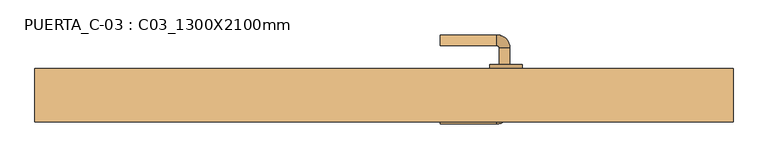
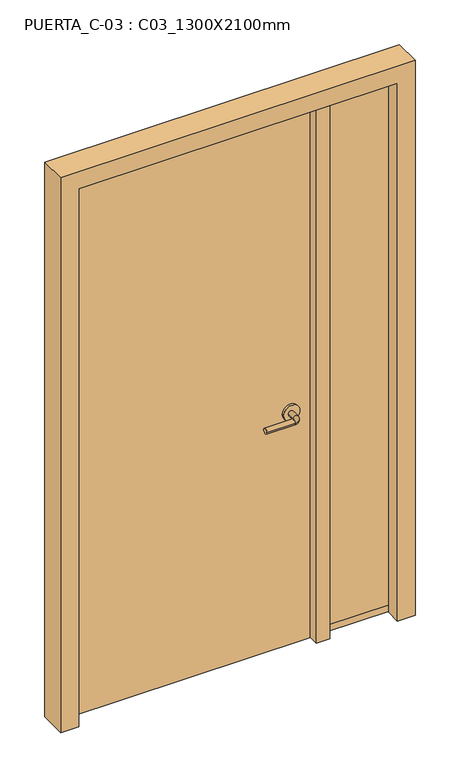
"""IFC4 building model written with IfcOpenShell, lengths in millimetres: door geometry, PUERTA_C-03 : C03_1300X2100mm."""

from ifc_helpers import new_model, si_unit, point, frame, frame_2d, origin, origin_with_axes, place, context, project, spatial, polyline, circle_curve, ellipse_curve, trimmed, segment, composite_curve, outline, extrude, faceted_brep, source, transform, mapped, element, save
from ifc_brep_helpers import plane_surface, cylinder_surface, revolved_surface, advanced_brep


def puerta_c_03_c03_1300x2100mm_f842b1da(model_context):
    return source(origin(), model_context, "Body", "SolidModel", [
        advanced_brep(
        [(234.59375, 18.35, 900.0), (214.59375, 18.35, 900.0), (234.59375, -11.65, 900.0), (214.59375, -11.65, 900.0), (209.59375, -16.65, 900.0), (209.59375, -36.65, 900.0), (104.59375, -36.65, 900.0), (104.59375, -16.65, 900.0)],
        [
            (0, 1, circle_curve(frame((224.59375, 18.35, 900.0), z_axis=(0.0, 1.0, 0.0), x_axis=(-1.0, 0.0, 0.0)), 10.0)),
            (1, 0, circle_curve(frame((224.59375, 18.35, 900.0), z_axis=(0.0, 1.0, 0.0), x_axis=(-1.0, 0.0, 0.0)), 10.0)),
            (0, 2),
            (2, 3, circle_curve(frame((224.59375, -11.65, 900.0), z_axis=(0.0, 1.0, 0.0), x_axis=(-1.0, 0.0, 0.0)), 10.0)),
            (3, 1),
            (3, 2, circle_curve(frame((224.59375, -11.65, 900.0), z_axis=(0.0, 1.0, 0.0), x_axis=(-1.0, 0.0, 0.0)), 10.0)),
            (4, 3, circle_curve(frame((209.59375, -11.65, 900.0), z_axis=(0.0, 0.0, 1.0), x_axis=(1.0, 0.0, 0.0)), 5.0)),
            (2, 5, circle_curve(frame((209.59375, -11.65, 900.0), z_axis=(0.0, 0.0, -1.0), x_axis=(1.0, 0.0, 0.0)), 25.0)),
            (5, 4, circle_curve(frame((209.59375, -26.65, 900.0), z_axis=(1.0, 0.0, 0.0), x_axis=(0.0, 1.0, 0.0)), 10.0)),
            (4, 5, circle_curve(frame((209.59375, -26.65, 900.0), z_axis=(1.0, 0.0, 0.0), x_axis=(0.0, 1.0, 0.0)), 10.0)),
            (6, 7, circle_curve(frame((104.59375, -26.65, 900.0), z_axis=(-1.0, 0.0, 0.0), x_axis=(0.0, 1.0, 0.0)), 10.0)),
            (7, 6, circle_curve(frame((104.59375, -26.65, 900.0), z_axis=(-1.0, 0.0, 0.0), x_axis=(0.0, 1.0, 0.0)), 10.0)),
            (5, 6),
            (7, 4),
        ],
        [
            plane_surface(frame((224.59375, 18.35, 900.0), z_axis=(0.0, 1.0, 0.0), x_axis=(0.0, 0.0, 1.0))),
            cylinder_surface(frame((224.59375, 18.35, 900.0), z_axis=(0.0, 1.0, 0.0), x_axis=(-1.0, 0.0, 0.0)), 10.0),
            revolved_surface(trimmed(ellipse_curve(frame((224.59375, -11.65, 900.0), z_axis=(0.0, 1.0, 0.0), x_axis=(-1.0, 0.0, 0.0)), 10.0, 10.0), [point((234.59375, -11.65, 900.0))], [point((214.59375, -11.65, 900.0))], True, "CARTESIAN"), (209.59375, -11.65, 900.0), (0.0, 0.0, -1.0)),
            revolved_surface(trimmed(ellipse_curve(frame((224.59375, -11.65, 900.0), z_axis=(0.0, 1.0, 0.0), x_axis=(-1.0, 0.0, 0.0)), 10.0, 10.0), [point((214.59375, -11.65, 900.0))], [point((234.59375, -11.65, 900.0))], True, "CARTESIAN"), (209.59375, -11.65, 900.0), (0.0, 0.0, -1.0)),
            plane_surface(frame((104.59375, -26.65, 900.0), z_axis=(-1.0, 0.0, 0.0), x_axis=(0.0, 0.0, 1.0))),
            cylinder_surface(frame((209.59375, -26.65, 900.0), z_axis=(1.0, 0.0, 0.0), x_axis=(0.0, 1.0, 0.0)), 10.0),
        ],
        [
            (0, [[1, 2]]),
            (1, [[-1, 3, 4, 5]]),
            (1, [[-2, -5, 6, -3]]),
            (2, [[7, -4, 8, 9]]),
            (3, [[-8, -6, -7, 10]]),
            (4, [[11, 12]]),
            (5, [[-9, 13, -12, 14]]),
            (5, [[-10, -14, -11, -13]]),
        ],
    ),
        extrude(outline(composite_curve([segment(trimmed(circle_curve(frame_2d((900.0, 227.09375)), 30.0), [point((900.0, 257.09375))], [point((900.0, 197.09375))], False, "CARTESIAN"), True, "CONTINUOUS"), segment(trimmed(circle_curve(frame_2d((900.0, 227.09375)), 30.0), [point((900.0, 197.09375))], [point((900.0, 257.09375))], False, "CARTESIAN"), True, "CONTINUOUS")], self_intersect=False)), frame((0.0, 18.35, 0.0), z_axis=(0.0, 1.0, 0.0), x_axis=(0.0, 0.0, 1.0)), (0.0, 0.0, 1.0), 8.0),
        advanced_brep(
        [(234.59375, 74.35, 900.0), (214.59375, 74.35, 900.0), (214.59375, 104.35, 900.0), (234.59375, 104.35, 900.0), (209.59375, 109.35, 900.0), (209.59375, 129.35, 900.0), (104.59375, 129.35, 900.0), (104.59375, 109.35, 900.0)],
        [
            (0, 1, circle_curve(frame((224.59375, 74.35, 900.0), z_axis=(0.0, -1.0, 0.0), x_axis=(-1.0, 0.0, 0.0)), 10.0)),
            (1, 0, circle_curve(frame((224.59375, 74.35, 900.0), z_axis=(0.0, -1.0, 0.0), x_axis=(-1.0, 0.0, 0.0)), 10.0)),
            (1, 2),
            (2, 3, circle_curve(frame((224.59375, 104.35, 900.0), z_axis=(0.0, -1.0, 0.0), x_axis=(-1.0, 0.0, 0.0)), 10.0)),
            (3, 0),
            (3, 2, circle_curve(frame((224.59375, 104.35, 900.0), z_axis=(0.0, -1.0, 0.0), x_axis=(-1.0, 0.0, 0.0)), 10.0)),
            (4, 5, circle_curve(frame((209.59375, 119.35, 900.0), z_axis=(1.0, 0.0, 0.0), x_axis=(0.0, -1.0, 0.0)), 10.0)),
            (5, 3, circle_curve(frame((209.59375, 104.35, 900.0), z_axis=(0.0, 0.0, -1.0), x_axis=(1.0, 0.0, 0.0)), 25.0)),
            (2, 4, circle_curve(frame((209.59375, 104.35, 900.0), z_axis=(0.0, 0.0, 1.0), x_axis=(1.0, 0.0, 0.0)), 5.0)),
            (5, 4, circle_curve(frame((209.59375, 119.35, 900.0), z_axis=(1.0, 0.0, 0.0), x_axis=(0.0, -1.0, 0.0)), 10.0)),
            (6, 7, circle_curve(frame((104.59375, 119.35, 900.0), z_axis=(-1.0, 0.0, 0.0), x_axis=(0.0, -1.0, 0.0)), 10.0)),
            (7, 6, circle_curve(frame((104.59375, 119.35, 900.0), z_axis=(-1.0, 0.0, 0.0), x_axis=(0.0, -1.0, 0.0)), 10.0)),
            (4, 7),
            (6, 5),
        ],
        [
            plane_surface(frame((224.59375, 74.35, 900.0), z_axis=(0.0, -1.0, 0.0), x_axis=(0.0, 0.0, 1.0))),
            cylinder_surface(frame((224.59375, 74.35, 900.0), z_axis=(0.0, -1.0, 0.0), x_axis=(-1.0, 0.0, 0.0)), 10.0),
            revolved_surface(trimmed(ellipse_curve(frame((224.59375, 104.35, 900.0), z_axis=(0.0, 1.0, 0.0), x_axis=(-1.0, 0.0, 0.0)), 10.0, 10.0), [point((234.59375, 104.35, 900.0))], [point((214.59375, 104.35, 900.0))], True, "CARTESIAN"), (209.59375, 104.35, 900.0), (0.0, 0.0, -1.0)),
            revolved_surface(trimmed(ellipse_curve(frame((224.59375, 104.35, 900.0), z_axis=(0.0, 1.0, 0.0), x_axis=(-1.0, 0.0, 0.0)), 10.0, 10.0), [point((214.59375, 104.35, 900.0))], [point((234.59375, 104.35, 900.0))], True, "CARTESIAN"), (209.59375, 104.35, 900.0), (0.0, 0.0, -1.0)),
            plane_surface(frame((104.59375, 119.35, 900.0), z_axis=(-1.0, 0.0, 0.0), x_axis=(0.0, 0.0, 1.0))),
            cylinder_surface(frame((209.59375, 119.35, 900.0), z_axis=(1.0, 0.0, 0.0), x_axis=(0.0, -1.0, 0.0)), 10.0),
        ],
        [
            (0, [[1, 2]]),
            (1, [[3, 4, 5, -2]]),
            (1, [[-5, 6, -3, -1]]),
            (2, [[7, 8, -4, 9]]),
            (3, [[10, -9, -6, -8]]),
            (4, [[11, 12]]),
            (5, [[13, -11, 14, -7]]),
            (5, [[-14, -12, -13, -10]]),
        ],
    ),
        extrude(outline(composite_curve([segment(trimmed(circle_curve(frame_2d((900.0, 227.09375)), 30.0), [point((900.0, 257.09375))], [point((900.0, 197.09375))], False, "CARTESIAN"), True, "CONTINUOUS"), segment(trimmed(circle_curve(frame_2d((900.0, 227.09375)), 30.0), [point((900.0, 197.09375))], [point((900.0, 257.09375))], False, "CARTESIAN"), True, "CONTINUOUS")], self_intersect=False)), frame((0.0, 66.35, 0.0), z_axis=(0.0, 1.0, 0.0), x_axis=(0.0, 0.0, 1.0)), (0.0, 0.0, 1.0), 8.0),
        extrude(outline(polyline([(300.0, 63.1875), (300.0, 66.35), (350.0, 66.35), (350.0, -12.05), (300.0, -12.05), (300.0, 37.1625), (284.125, 37.1625), (284.125, 63.1875), (300.0, 63.1875)])), origin_with_axes(), (0.0, 0.0, 1.0), 2100.0),
        faceted_brep([(600.0, 21.5875, 0.0), (600.0, 66.35, 0.0), (650.0, 66.35, 0.0), (650.0, -33.65, 0.0), (584.125, -33.65, 0.0), (584.125, 21.5875, 0.0), (600.0, 21.5875, 2100.0), (600.0, 66.35, 2100.0), (-600.0, 66.35, 2100.0), (-600.0, 66.35, 0.0), (-650.0, 66.35, 0.0), (-650.0, 66.35, 2150.0), (650.0, 66.35, 2150.0), (650.0, -33.65, 2150.0), (-650.0, -33.65, 2150.0), (-650.0, -33.65, 0.0), (-584.125, -33.65, 0.0), (-584.125, -33.65, 2084.125), (584.125, -33.65, 2084.125), (584.125, 21.5875, 2084.125), (-584.125, 21.5875, 2084.125), (-584.125, 21.5875, 0.0), (-600.0, 21.5875, 0.0), (-600.0, 21.5875, 2100.0)], [[[0, 1, 2, 3, 4, 5]], [[1, 0, 6, 7]], [[2, 1, 7, 8, 9, 10, 11, 12]], [[3, 2, 12, 13]], [[4, 3, 13, 14, 15, 16, 17, 18]], [[5, 4, 18, 19]], [[0, 5, 19, 20, 21, 22, 23, 6]], [[7, 6, 23, 8]], [[13, 12, 11, 14]], [[19, 18, 17, 20]], [[22, 21, 16, 15, 10, 9]], [[8, 23, 22, 9]], [[14, 11, 10, 15]], [[20, 17, 16, 21]]]),
        extrude(outline(polyline([(298.4, 26.35), (-600.0, 26.35), (-600.0, 66.35), (298.4, 66.35), (298.4, 26.35)])), origin_with_axes(), (0.0, 0.0, 1.0), 2100.0),
        extrude(outline(polyline([(2100.0, 350.0), (1400.0, 350.0), (25.0, 350.0), (25.0, 600.0), (1400.0, 600.0), (2100.0, 600.0), (2100.0, 350.0)])), frame((0.0, 26.35, 0.0), z_axis=(0.0, 1.0, 0.0), x_axis=(0.0, 0.0, 1.0)), (0.0, 0.0, 1.0), 10.0),
        extrude(outline(polyline([(25.0, 600.0), (1400.0, 600.0), (1400.0, 350.0), (25.0, 350.0), (25.0, 600.0)]), holes=[composite_curve([segment(trimmed(circle_curve(frame_2d((700.0, 475.0)), 100.0), [point((700.0, 575.0))], [point((700.0, 375.0))], True, "CARTESIAN"), True, "CONTINUOUS"), segment(trimmed(circle_curve(frame_2d((700.0, 475.0)), 100.0), [point((700.0, 375.0))], [point((700.0, 575.0))], True, "CARTESIAN"), True, "CONTINUOUS")], self_intersect=False)]), frame((0.0, 36.35, 0.0), z_axis=(0.0, 1.0, 0.0), x_axis=(0.0, 0.0, 1.0)), (0.0, 0.0, 1.0), 1.0),
        extrude(outline(polyline([(350.0, 46.35), (600.0, 46.35), (600.0, 26.35), (350.0, 26.35), (350.0, 46.35)])), origin_with_axes(), (0.0, 0.0, 1.0), 25.0),
    ])


if __name__ == "__main__":
    model = new_model("IFC4")
    model_context = context("Model", 3, world=origin())
    ifc_project = project(units=[si_unit("LENGTHUNIT", "METRE", prefix="MILLI")], contexts=[model_context])
    site = spatial("IfcSite", under=ifc_project)
    building = spatial("IfcBuilding", under=site)
    placement = place(None, origin())
    puerta_c_03_c03_1300x2100mm_shape = puerta_c_03_c03_1300x2100mm_f842b1da(model_context)
    element("IfcDoor", 1, ObjectType="PUERTA_C-03 : C03_1300X2100mm", at=placement, inside=building, context=model_context, shape_type="MappedRepresentation", body=[
        mapped(puerta_c_03_c03_1300x2100mm_shape, transform((0.0, 0.0, 0.0), x_axis=(1.0, 0.0, 0.0), y_axis=(0.0, 1.0, 0.0), z_axis=(0.0, 0.0, 1.0))),
    ])
    save(model, "model.ifc")
